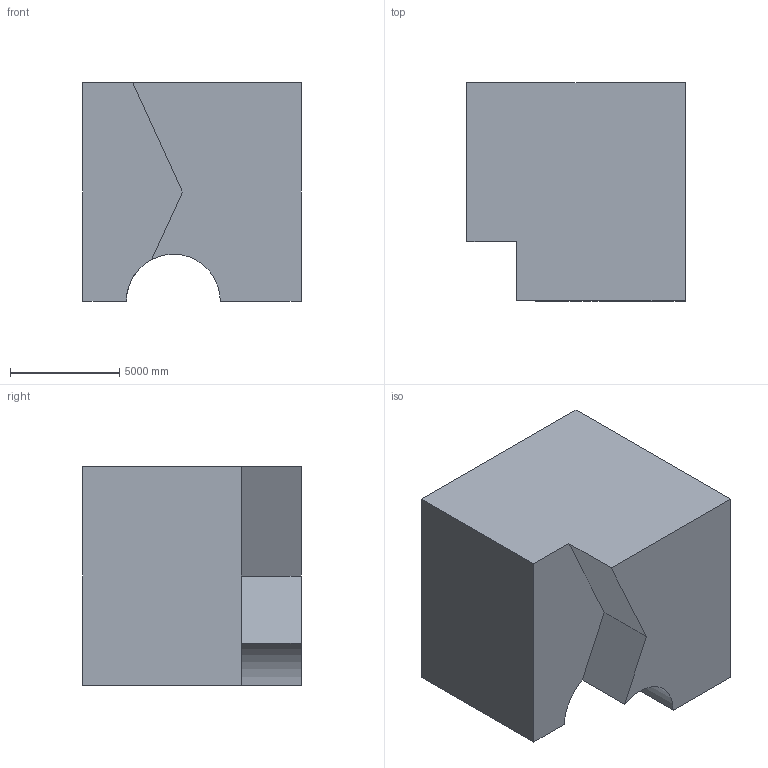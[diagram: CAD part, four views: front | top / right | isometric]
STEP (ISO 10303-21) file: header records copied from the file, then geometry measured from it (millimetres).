
FILE_DESCRIPTION (( 'STEP AP203' ), '1' );
FILE_NAME ('1100.STEP', '2022-08-18T12:45:45', ( 'user' ), ( '' ), 'SwSTEP 2.0', 'SolidWorks 2021', '' );
FILE_SCHEMA (( 'CONFIG_CONTROL_DESIGN' ));
Length unit declared in the file: centimetre
Products named in the file (1): 1100
Bounding box: 10000 x 10000 x 10000 mm (x, y, z)
Volume: 835848480796.5 mm3; surface area: 588934175.2 mm2
Topology: 1 solids, 1 shells, 12 faces, 30 edges, 20 vertices
Faces by surface type: plane 10, cylinder 2
Entity records: 436 total; most frequent: CARTESIAN_POINT 63, DIRECTION 61, ORIENTED_EDGE 60, EDGE_CURVE 30, LINE 25, VECTOR 25, VERTEX_POINT 20, AXIS2_PLACEMENT_3D 18
